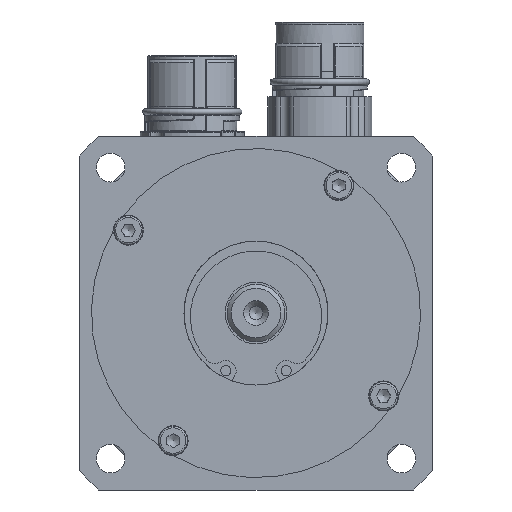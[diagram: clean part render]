
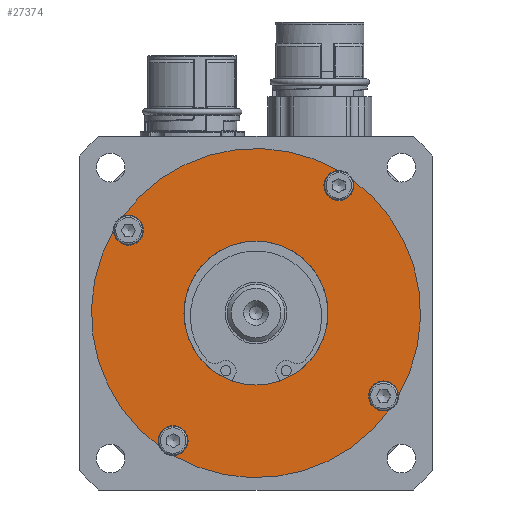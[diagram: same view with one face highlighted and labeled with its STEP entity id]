
A CAD part, left-side view. The second image highlights one B-rep face of the part: STEP entity #27374.
In plain terms, the highlighted planar face has unit normal (-1, 0, 0).
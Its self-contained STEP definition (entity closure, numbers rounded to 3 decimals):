
#2997=FACE_BOUND('',#8597,.T.);
#6770=FACE_OUTER_BOUND('',#8596,.T.);
#8596=EDGE_LOOP('',(#19195,#19196,#19197,#19198,#19199,#19200,#19201,#19202));
#8597=EDGE_LOOP('',(#19203));
#10765=CIRCLE('',#29265,17.5);
#10795=CIRCLE('',#29306,3.65);
#10801=CIRCLE('',#29315,3.65);
#10807=CIRCLE('',#29324,3.65);
#10813=CIRCLE('',#29333,3.65);
#10821=CIRCLE('',#29350,40.);
#10823=CIRCLE('',#29353,40.);
#10824=CIRCLE('',#29354,40.);
#10825=CIRCLE('',#29355,40.);
#12664=VERTEX_POINT('',#41587);
#12700=VERTEX_POINT('',#41679);
#12701=VERTEX_POINT('',#41680);
#12710=VERTEX_POINT('',#41702);
#12711=VERTEX_POINT('',#41703);
#12720=VERTEX_POINT('',#41725);
#12721=VERTEX_POINT('',#41726);
#12730=VERTEX_POINT('',#41748);
#12731=VERTEX_POINT('',#41749);
#15185=EDGE_CURVE('',#12664,#12664,#10765,.T.);
#15230=EDGE_CURVE('',#12700,#12701,#10795,.T.);
#15240=EDGE_CURVE('',#12710,#12711,#10801,.T.);
#15250=EDGE_CURVE('',#12720,#12721,#10807,.T.);
#15260=EDGE_CURVE('',#12730,#12731,#10813,.T.);
#15275=EDGE_CURVE('',#12700,#12731,#10821,.T.);
#15277=EDGE_CURVE('',#12730,#12721,#10823,.T.);
#15278=EDGE_CURVE('',#12720,#12711,#10824,.T.);
#15279=EDGE_CURVE('',#12710,#12701,#10825,.T.);
#19195=ORIENTED_EDGE('',*,*,#15260,.F.);
#19196=ORIENTED_EDGE('',*,*,#15277,.T.);
#19197=ORIENTED_EDGE('',*,*,#15250,.F.);
#19198=ORIENTED_EDGE('',*,*,#15278,.T.);
#19199=ORIENTED_EDGE('',*,*,#15240,.F.);
#19200=ORIENTED_EDGE('',*,*,#15279,.T.);
#19201=ORIENTED_EDGE('',*,*,#15230,.F.);
#19202=ORIENTED_EDGE('',*,*,#15275,.T.);
#19203=ORIENTED_EDGE('',*,*,#15185,.F.);
#26824=PLANE('',#29352);
#27374=ADVANCED_FACE('',(#6770,#2997),#26824,.F.);
#29265=AXIS2_PLACEMENT_3D('',#41588,#33001,#33002);
#29306=AXIS2_PLACEMENT_3D('',#41681,#33098,#33099);
#29315=AXIS2_PLACEMENT_3D('',#41704,#33120,#33121);
#29324=AXIS2_PLACEMENT_3D('',#41727,#33142,#33143);
#29333=AXIS2_PLACEMENT_3D('',#41750,#33164,#33165);
#29350=AXIS2_PLACEMENT_3D('',#41783,#33205,#33206);
#29352=AXIS2_PLACEMENT_3D('',#41785,#33209,#33210);
#29353=AXIS2_PLACEMENT_3D('',#41786,#33211,#33212);
#29354=AXIS2_PLACEMENT_3D('',#41787,#33213,#33214);
#29355=AXIS2_PLACEMENT_3D('',#41788,#33215,#33216);
#33001=DIRECTION('center_axis',(-1.,0.,0.));
#33002=DIRECTION('ref_axis',(0.,0.,
1.));
#33098=DIRECTION('center_axis',(-1.,0.,0.));
#33099=DIRECTION('ref_axis',(0.,-1.,0.));
#33120=DIRECTION('center_axis',(-1.,0.,0.));
#33121=DIRECTION('ref_axis',(0.,0.,
-1.));
#33142=DIRECTION('center_axis',(-1.,0.,0.));
#33143=DIRECTION('ref_axis',(0.,1.,0.));
#33164=DIRECTION('center_axis',(-1.,0.,0.));
#33165=DIRECTION('ref_axis',(0.,0.,1.));
#33205=DIRECTION('center_axis',(-1.,0.,0.));
#33206=DIRECTION('ref_axis',(0.,0.,
1.));
#33209=DIRECTION('center_axis',(1.,0.,0.));
#33210=DIRECTION('ref_axis',(0.,0.,-1.));
#33211=DIRECTION('center_axis',(-1.,0.,0.));
#33212=DIRECTION('ref_axis',(0.,0.,
1.));
#33213=DIRECTION('center_axis',(-1.,0.,0.));
#33214=DIRECTION('ref_axis',(0.,0.,
1.));
#33215=DIRECTION('center_axis',(-1.,0.,0.));
#33216=DIRECTION('ref_axis',(0.,0.,
1.));
#41587=CARTESIAN_POINT('',(-28.25,0.,-17.5));
#41588=CARTESIAN_POINT('Origin',(-28.25,0.,0.));
#41679=CARTESIAN_POINT('',(-28.25,34.647,19.99));
#41680=CARTESIAN_POINT('',(-28.25,32.335,23.547));
#41681=CARTESIAN_POINT('Origin',(-28.25,31.,20.15));
#41702=CARTESIAN_POINT('',(-28.25,-19.99,34.647));
#41703=CARTESIAN_POINT('',(-28.25,-23.547,32.335));
#41704=CARTESIAN_POINT('Origin',(-28.25,-20.15,31.));
#41725=CARTESIAN_POINT('',(-28.25,-34.647,-19.99));
#41726=CARTESIAN_POINT('',(-28.25,-32.335,-23.547));
#41727=CARTESIAN_POINT('Origin',(-28.25,-31.,-20.15));
#41748=CARTESIAN_POINT('',(-28.25,19.99,-34.647));
#41749=CARTESIAN_POINT('',(-28.25,23.547,-32.335));
#41750=CARTESIAN_POINT('Origin',(-28.25,20.15,-31.));
#41783=CARTESIAN_POINT('Origin',(-28.25,0.,0.));
#41785=CARTESIAN_POINT('Origin',(-28.25,0.,40.));
#41786=CARTESIAN_POINT('Origin',(-28.25,0.,0.));
#41787=CARTESIAN_POINT('Origin',(-28.25,0.,0.));
#41788=CARTESIAN_POINT('Origin',(-28.25,0.,0.));
